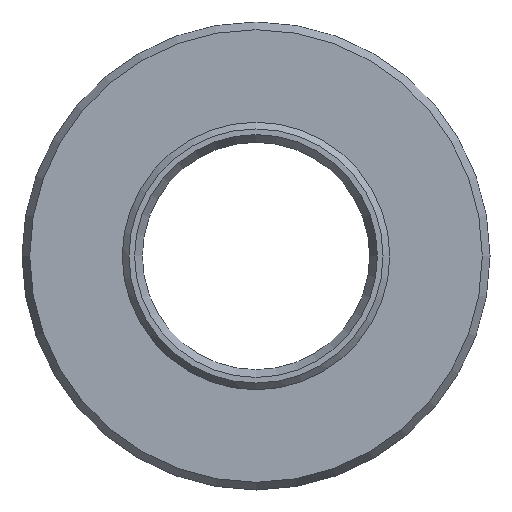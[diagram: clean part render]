
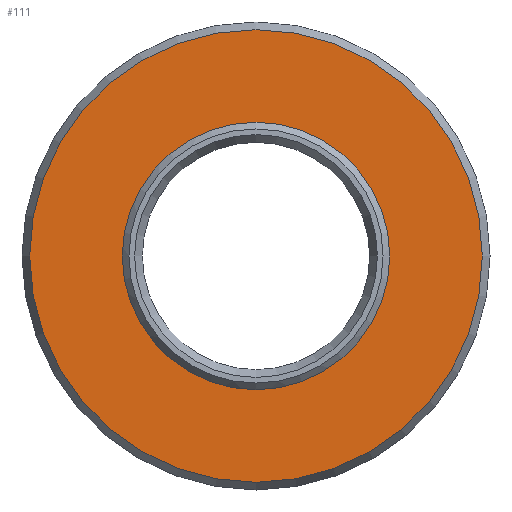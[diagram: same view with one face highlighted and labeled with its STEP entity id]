
A CAD part, left-side view. The second image highlights one B-rep face of the part: STEP entity #111.
In plain terms, the highlighted planar face has unit normal (-1, 0, 0).
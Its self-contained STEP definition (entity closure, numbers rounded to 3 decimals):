
#97=PLANE('',#323);
#111=ADVANCED_FACE('',(#144,#145),#97,.T.);
#144=FACE_BOUND('',#175,.T.);
#145=FACE_BOUND('',#176,.T.);
#175=EDGE_LOOP('',(#214));
#176=EDGE_LOOP('',(#215));
#214=ORIENTED_EDGE('',*,*,#279,.T.);
#215=ORIENTED_EDGE('',*,*,#280,.T.);
#258=VERTEX_POINT('',#461);
#259=VERTEX_POINT('',#463);
#279=EDGE_CURVE('',#258,#258,#298,.T.);
#280=EDGE_CURVE('',#259,#259,#299,.T.);
#298=CIRCLE('',#321,16.923);
#299=CIRCLE('',#322,10.);
#321=AXIS2_PLACEMENT_3D('',#460,#369,#370);
#322=AXIS2_PLACEMENT_3D('',#462,#371,#372);
#323=AXIS2_PLACEMENT_3D('',#464,#373,#374);
#369=DIRECTION('',(-1.,0.,0.));
#370=DIRECTION('',(0.,0.,1.));
#371=DIRECTION('',(1.,0.,0.));
#372=DIRECTION('',(0.,0.,-1.));
#373=DIRECTION('',(-1.,0.,0.));
#374=DIRECTION('',(0.,0.,1.));
#460=CARTESIAN_POINT('',(0.,0.,0.));
#461=CARTESIAN_POINT('',(0.,0.,16.923));
#462=CARTESIAN_POINT('',(0.,0.,0.));
#463=CARTESIAN_POINT('',(0.,0.,-10.));
#464=CARTESIAN_POINT('',(0.,17.5,0.));
